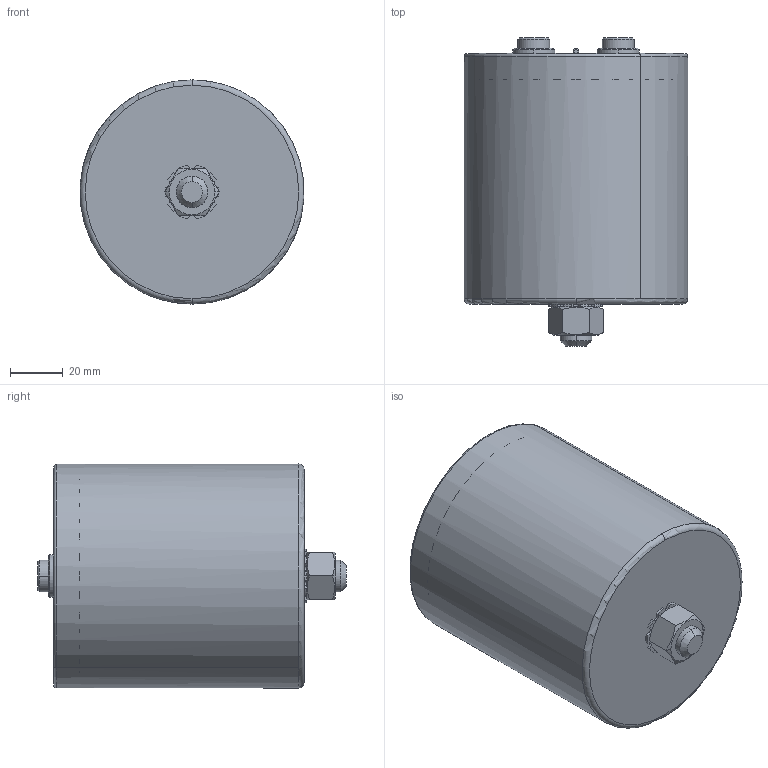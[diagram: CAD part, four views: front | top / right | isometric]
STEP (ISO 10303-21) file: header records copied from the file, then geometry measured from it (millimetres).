
FILE_DESCRIPTION (( 'STEP AP203' ), '1' );
FILE_NAME ('B25690Ax_85x95_101.STEP', '2021-08-30T08:03:55', ( '' ), ( '' ), 'SwSTEP 2.0', 'SolidWorks 2017', '' );
FILE_SCHEMA (( 'CONFIG_CONTROL_DESIGN' ));
Length unit declared in the file: millimetre
Products named in the file (1): B25690Ax_85x95_101
Bounding box: 84.88 x 117 x 85 mm (x, y, z)
Volume: 93472.4 mm3; surface area: 84875.1 mm2
Topology: 1 solids, 3 shells, 260 faces, 678 edges, 434 vertices
Faces by surface type: plane 122, cylinder 71, cone 41, torus 26
Entity records: 8399 total; most frequent: CARTESIAN_POINT 2041, ORIENTED_EDGE 1356, DIRECTION 1336, EDGE_CURVE 678, AXIS2_PLACEMENT_3D 537, VERTEX_POINT 434, CIRCLE 276, EDGE_LOOP 272
